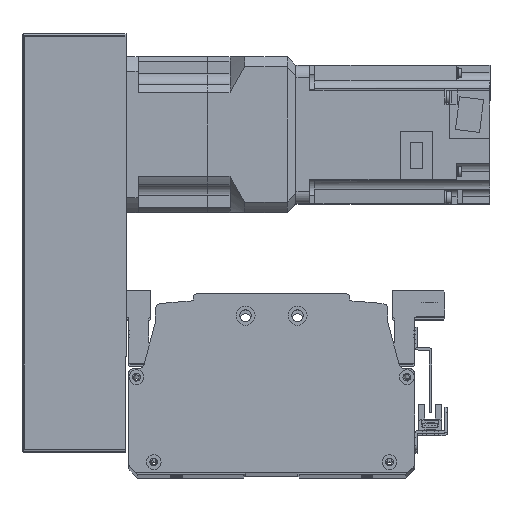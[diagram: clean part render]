
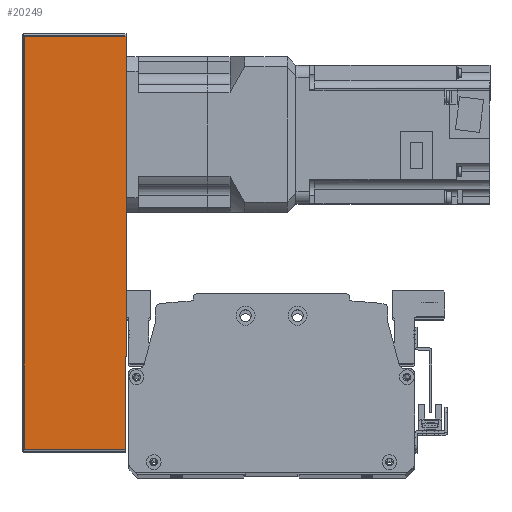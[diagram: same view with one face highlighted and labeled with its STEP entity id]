
A CAD part, top view. The second image highlights one B-rep face of the part: STEP entity #20249.
In plain terms, the highlighted planar face has unit normal (0, 0, 1) as drawn and (0, -1, 0) by its records, which use the part's own axes.
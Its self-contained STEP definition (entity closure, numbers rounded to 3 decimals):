
#603=PLANE('',#22103);
#1724=LINE('',#32555,#3384);
#1747=LINE('',#32642,#3407);
#1748=LINE('',#32650,#3408);
#1756=LINE('',#32676,#3416);
#3384=VECTOR('',#26355,10.);
#3407=VECTOR('',#26466,10.);
#3408=VECTOR('',#26477,10.);
#3416=VECTOR('',#26513,10.);
#5436=FACE_OUTER_BOUND('',#6900,.T.);
#6900=EDGE_LOOP('',(#16466,#16467,#16468,#16469));
#9800=VERTEX_POINT('',#32552);
#9801=VERTEX_POINT('',#32554);
#9821=VERTEX_POINT('',#32638);
#9822=VERTEX_POINT('',#32644);
#12175=EDGE_CURVE('',#9800,#9801,#1724,.T.);
#12220=EDGE_CURVE('',#9801,#9821,#1747,.T.);
#12224=EDGE_CURVE('',#9822,#9800,#1748,.T.);
#12238=EDGE_CURVE('',#9821,#9822,#1756,.T.);
#16466=ORIENTED_EDGE('',*,*,#12220,.F.);
#16467=ORIENTED_EDGE('',*,*,#12175,.F.);
#16468=ORIENTED_EDGE('',*,*,#12224,.F.);
#16469=ORIENTED_EDGE('',*,*,#12238,.F.);
#20249=ADVANCED_FACE('',(#5436),#603,.T.);
#22103=AXIS2_PLACEMENT_3D('',#32681,#26522,#26523);
#26355=DIRECTION('',(1.,0.,0.));
#26466=DIRECTION('',(0.,0.,-1.));
#26477=DIRECTION('',(0.,0.,1.));
#26513=DIRECTION('',(-1.,0.,0.));
#26522=DIRECTION('center_axis',(0.,-1.,0.));
#26523=DIRECTION('ref_axis',(1.,0.,0.));
#32552=CARTESIAN_POINT('',(-119.5,-51.,30.));
#32554=CARTESIAN_POINT('',(119.5,-51.,30.));
#32555=CARTESIAN_POINT('',(120.5,-51.,30.));
#32638=CARTESIAN_POINT('',(119.5,-51.,-29.));
#32642=CARTESIAN_POINT('',(119.5,-51.,0.));
#32644=CARTESIAN_POINT('',(-119.5,-51.,-29.));
#32650=CARTESIAN_POINT('',(-119.5,-51.,0.));
#32676=CARTESIAN_POINT('',(-60.25,-51.,-29.));
#32681=CARTESIAN_POINT('Origin',(-120.5,-51.,0.));
